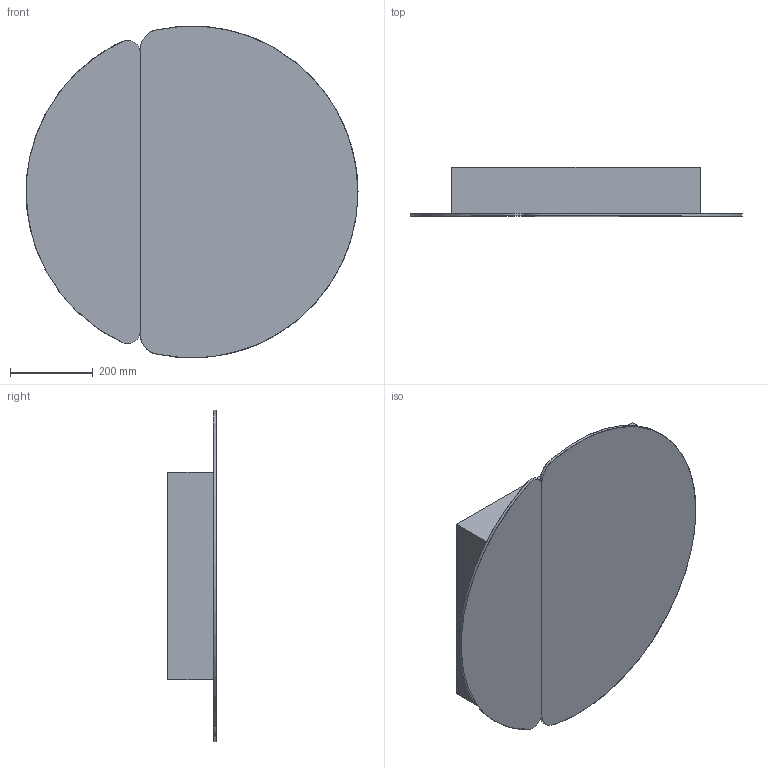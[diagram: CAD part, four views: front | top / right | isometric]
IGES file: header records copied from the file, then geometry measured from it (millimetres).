
Global section: file name: \\Archi-NAS\Comune\X GIOVANNI\SPECCHI\MIRR HIDE\MIRR HIDE_CIRCLE.igs; native system: Rhinoceros ( Feb 23 2021 ); preprocessor: Trout Lake IGES 012 Feb 23 2021; date: 230608.075825; units: millimetre
Bounding box: 800 x 117 x 799.37 mm (x, y, z)
Surface area: 2378874.3 mm2 (no closed solid volume)
Topology: 0 solids, 0 shells, 41 faces, 192 edges, 192 vertices
Faces by surface type: bspline 41
